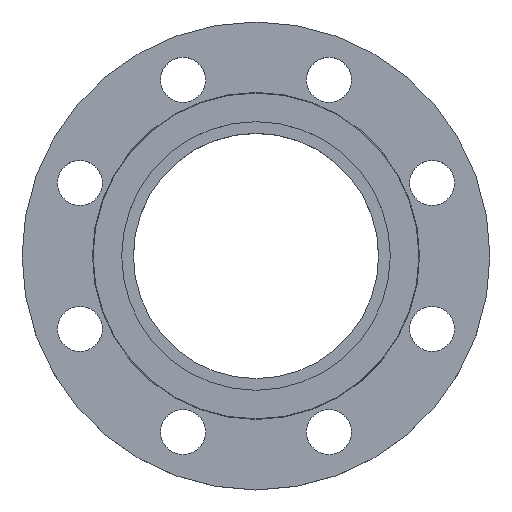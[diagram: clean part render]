
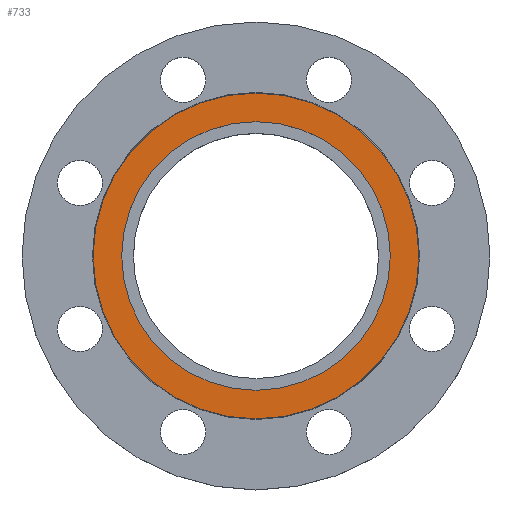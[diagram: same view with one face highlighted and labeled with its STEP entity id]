
A CAD part, top view. The second image highlights one B-rep face of the part: STEP entity #733.
In plain terms, the highlighted planar face has unit normal (0, 0, 1).
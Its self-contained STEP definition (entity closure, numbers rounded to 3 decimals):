
#44 = DIRECTION ( 'NONE',  ( -1., 0., 0. ) ) ;
#45 = DIRECTION ( 'NONE',  ( 0., 0., -1. ) ) ;
#48 = CARTESIAN_POINT ( 'NONE',  ( 0., 0., 0. ) ) ;
#82 = AXIS2_PLACEMENT_3D ( 'NONE', #48, #45, #44 ) ;
#101 = CARTESIAN_POINT ( 'NONE',  ( 77.5, 0., 0. ) ) ;
#165 = CARTESIAN_POINT ( 'NONE',  ( -94., 0., 0. ) ) ;
#258 = CARTESIAN_POINT ( 'NONE',  ( -77.5, 0., 0. ) ) ;
#384 = DIRECTION ( 'NONE',  ( -1., 0., 0. ) ) ;
#385 = AXIS2_PLACEMENT_3D ( 'NONE', #390, #386, #384 ) ;
#386 = DIRECTION ( 'NONE',  ( 0., 0., -1. ) ) ;
#390 = CARTESIAN_POINT ( 'NONE',  ( 0., 0., 0. ) ) ;
#424 = AXIS2_PLACEMENT_3D ( 'NONE', #522, #527, #524 ) ;
#427 = DIRECTION ( 'NONE',  ( 1., 0., 0. ) ) ;
#428 = DIRECTION ( 'NONE',  ( 0., 0., 1. ) ) ;
#429 = CARTESIAN_POINT ( 'NONE',  ( 0., 0., 0. ) ) ;
#430 = PLANE ( 'NONE',  #724 ) ;
#431 = FACE_BOUND ( 'NONE', #881, .T. ) ;
#433 = FACE_OUTER_BOUND ( 'NONE', #589, .T. ) ;
#487 = CARTESIAN_POINT ( 'NONE',  ( 94., 0., 0. ) ) ;
#492 = AXIS2_PLACEMENT_3D ( 'NONE', #774, #769, #770 ) ;
#495 = CIRCLE ( 'NONE', #492, 94. ) ;
#513 = EDGE_CURVE ( 'NONE', #934, #627, #495, .T. ) ;
#522 = CARTESIAN_POINT ( 'NONE',  ( 0., 0., 0. ) ) ;
#524 = DIRECTION ( 'NONE',  ( -1., 0., 0. ) ) ;
#527 = DIRECTION ( 'NONE',  ( 0., 0., -1. ) ) ;
#547 = EDGE_CURVE ( 'NONE', #627, #934, #849, .T. ) ;
#589 = EDGE_LOOP ( 'NONE', ( #1038, #1039 ) ) ;
#609 = CIRCLE ( 'NONE', #385, 77.5 ) ;
#627 = VERTEX_POINT ( 'NONE', #487 ) ;
#724 = AXIS2_PLACEMENT_3D ( 'NONE', #429, #428, #427 ) ;
#733 = ADVANCED_FACE ( 'NONE', ( #433, #431 ), #430, .T. ) ;
#769 = DIRECTION ( 'NONE',  ( 0., 0., -1. ) ) ;
#770 = DIRECTION ( 'NONE',  ( -1., 0., 0. ) ) ;
#774 = CARTESIAN_POINT ( 'NONE',  ( 0., 0., 0. ) ) ;
#791 = EDGE_CURVE ( 'NONE', #857, #885, #609, .T. ) ;
#832 = CIRCLE ( 'NONE', #82, 77.5 ) ;
#849 = CIRCLE ( 'NONE', #424, 94. ) ;
#857 = VERTEX_POINT ( 'NONE', #258 ) ;
#881 = EDGE_LOOP ( 'NONE', ( #1040, #1041 ) ) ;
#885 = VERTEX_POINT ( 'NONE', #101 ) ;
#934 = VERTEX_POINT ( 'NONE', #165 ) ;
#1038 = ORIENTED_EDGE ( 'NONE', *, *, #513, .F. ) ;
#1039 = ORIENTED_EDGE ( 'NONE', *, *, #547, .F. ) ;
#1040 = ORIENTED_EDGE ( 'NONE', *, *, #791, .T. ) ;
#1041 = ORIENTED_EDGE ( 'NONE', *, *, #1053, .T. ) ;
#1053 = EDGE_CURVE ( 'NONE', #885, #857, #832, .T. ) ;
